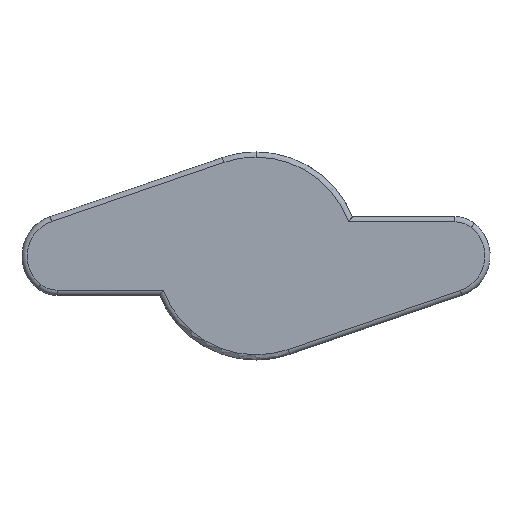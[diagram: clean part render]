
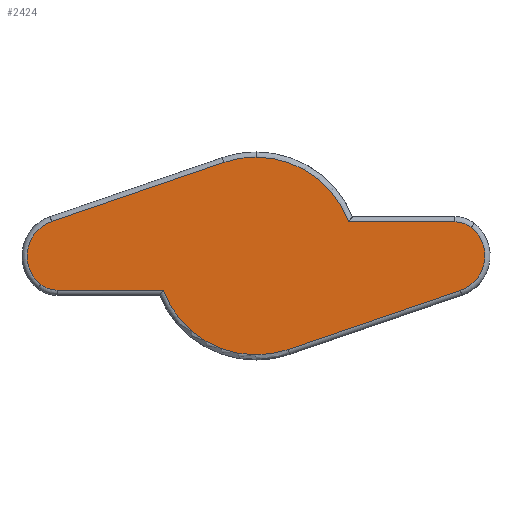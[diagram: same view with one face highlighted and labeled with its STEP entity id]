
A CAD part, front view. The second image highlights one B-rep face of the part: STEP entity #2424.
In plain terms, the highlighted planar face has unit normal (0, -1, 0).
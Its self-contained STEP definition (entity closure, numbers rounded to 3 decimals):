
#14 = CARTESIAN_POINT ( 'NONE',  ( 19.121, 0., 3.284 ) ) ;
#26 = CARTESIAN_POINT ( 'NONE',  ( 8.914, 0., 3.284 ) ) ;
#33 = EDGE_LOOP ( 'NONE', ( #1531, #1930, #3220, #2764, #3547, #1277, #1314, #2760, #2710, #3464, #493 ) ) ;
#94 = DIRECTION ( 'NONE',  ( 0., -1., 0. ) ) ;
#179 = AXIS2_PLACEMENT_3D ( 'NONE', #3183, #1493, #3453 ) ;
#204 = VERTEX_POINT ( 'NONE', #1848 ) ;
#234 = CARTESIAN_POINT ( 'NONE',  ( -19.121, 0., -3.284 ) ) ;
#332 = VERTEX_POINT ( 'NONE', #234 ) ;
#343 = DIRECTION ( 'NONE',  ( 0.946, 0., 0.324 ) ) ;
#361 = EDGE_CURVE ( 'NONE', #1002, #1988, #3283, .T. ) ;
#375 = EDGE_CURVE ( 'NONE', #204, #1638, #3197, .T. ) ;
#381 = DIRECTION ( 'NONE',  ( 0., -1., 0. ) ) ;
#473 = CARTESIAN_POINT ( 'NONE',  ( 0., 0., 0. ) ) ;
#493 = ORIENTED_EDGE ( 'NONE', *, *, #843, .T. ) ;
#629 = VERTEX_POINT ( 'NONE', #14 ) ;
#691 = CARTESIAN_POINT ( 'NONE',  ( 20.674, 0., 2.743 ) ) ;
#748 = DIRECTION ( 'NONE',  ( -0.946, 0., -0.324 ) ) ;
#772 = EDGE_CURVE ( 'NONE', #2037, #829, #1791, .T. ) ;
#829 = VERTEX_POINT ( 'NONE', #3485 ) ;
#843 = EDGE_CURVE ( 'NONE', #332, #1577, #1617, .T. ) ;
#863 = CIRCLE ( 'NONE', #179, 2.5 ) ;
#909 = DIRECTION ( 'NONE',  ( 0., -1., 0. ) ) ;
#915 = VECTOR ( 'NONE', #3588, 1000. ) ;
#1002 = VERTEX_POINT ( 'NONE', #3551 ) ;
#1026 = DIRECTION ( 'NONE',  ( 0., -1., 0. ) ) ;
#1036 = EDGE_CURVE ( 'NONE', #629, #2040, #1989, .T. ) ;
#1045 = VECTOR ( 'NONE', #343, 1000. ) ;
#1183 = CARTESIAN_POINT ( 'NONE',  ( 18.5, 0., 0. ) ) ;
#1277 = ORIENTED_EDGE ( 'NONE', *, *, #3484, .T. ) ;
#1299 = DIRECTION ( 'NONE',  ( 0., 1., 0. ) ) ;
#1314 = ORIENTED_EDGE ( 'NONE', *, *, #772, .T. ) ;
#1326 = CARTESIAN_POINT ( 'NONE',  ( -20.674, 0., -2.743 ) ) ;
#1446 = CARTESIAN_POINT ( 'NONE',  ( -18.5, 0., 0. ) ) ;
#1465 = DIRECTION ( 'NONE',  ( 0., 0., 1. ) ) ;
#1493 = DIRECTION ( 'NONE',  ( 0., -1., 0. ) ) ;
#1495 = AXIS2_PLACEMENT_3D ( 'NONE', #1753, #94, #2046 ) ;
#1531 = ORIENTED_EDGE ( 'NONE', *, *, #3500, .T. ) ;
#1577 = VERTEX_POINT ( 'NONE', #3476 ) ;
#1617 = LINE ( 'NONE', #3276, #915 ) ;
#1638 = VERTEX_POINT ( 'NONE', #691 ) ;
#1676 = CARTESIAN_POINT ( 'NONE',  ( 0., 0., 9.5 ) ) ;
#1691 = AXIS2_PLACEMENT_3D ( 'NONE', #2597, #909, #2877 ) ;
#1735 = EDGE_CURVE ( 'NONE', #829, #1002, #2930, .T. ) ;
#1753 = CARTESIAN_POINT ( 'NONE',  ( 0., 0., 0. ) ) ;
#1791 = CIRCLE ( 'NONE', #2338, 9.5 ) ;
#1848 = CARTESIAN_POINT ( 'NONE',  ( 19.635, 0., -3.311 ) ) ;
#1897 = CARTESIAN_POINT ( 'NONE',  ( 0., 0., 0. ) ) ;
#1906 = DIRECTION ( 'NONE',  ( 0., -1., 0. ) ) ;
#1923 = DIRECTION ( 'NONE',  ( 0., 0., 1. ) ) ;
#1929 = FACE_OUTER_BOUND ( 'NONE', #33, .T. ) ;
#1930 = ORIENTED_EDGE ( 'NONE', *, *, #2120, .T. ) ;
#1969 = AXIS2_PLACEMENT_3D ( 'NONE', #2700, #1026, #2992 ) ;
#1988 = VERTEX_POINT ( 'NONE', #1326 ) ;
#1989 = LINE ( 'NONE', #2436, #3388 ) ;
#2037 = VERTEX_POINT ( 'NONE', #1676 ) ;
#2040 = VERTEX_POINT ( 'NONE', #26 ) ;
#2046 = DIRECTION ( 'NONE',  ( 0., 0., 1. ) ) ;
#2120 = EDGE_CURVE ( 'NONE', #2659, #204, #3287, .T. ) ;
#2228 = EDGE_CURVE ( 'NONE', #1988, #332, #863, .T. ) ;
#2286 = CIRCLE ( 'NONE', #1691, 9.5 ) ;
#2313 = AXIS2_PLACEMENT_3D ( 'NONE', #1446, #381, #1465 ) ;
#2338 = AXIS2_PLACEMENT_3D ( 'NONE', #1897, #1906, #1923 ) ;
#2357 = VECTOR ( 'NONE', #748, 1000. ) ;
#2417 = EDGE_CURVE ( 'NONE', #1638, #629, #3416, .T. ) ;
#2418 = CARTESIAN_POINT ( 'NONE',  ( -3.081, 0., 8.986 ) ) ;
#2424 = ADVANCED_FACE ( 'NONE', ( #1929 ), #3538, .F. ) ;
#2436 = CARTESIAN_POINT ( 'NONE',  ( 0., 0., 3.284 ) ) ;
#2525 = AXIS2_PLACEMENT_3D ( 'NONE', #473, #1299, #3274 ) ;
#2597 = CARTESIAN_POINT ( 'NONE',  ( 0., 0., 0. ) ) ;
#2659 = VERTEX_POINT ( 'NONE', #3189 ) ;
#2694 = AXIS2_PLACEMENT_3D ( 'NONE', #1183, #3404, #2875 ) ;
#2700 = CARTESIAN_POINT ( 'NONE',  ( 19.121, 0., 0.784 ) ) ;
#2710 = ORIENTED_EDGE ( 'NONE', *, *, #361, .T. ) ;
#2760 = ORIENTED_EDGE ( 'NONE', *, *, #1735, .T. ) ;
#2764 = ORIENTED_EDGE ( 'NONE', *, *, #2417, .T. ) ;
#2875 = DIRECTION ( 'NONE',  ( 0., 0., 1. ) ) ;
#2877 = DIRECTION ( 'NONE',  ( 0., 0., 1. ) ) ;
#2930 = LINE ( 'NONE', #2418, #2357 ) ;
#2942 = CIRCLE ( 'NONE', #1495, 9.5 ) ;
#2992 = DIRECTION ( 'NONE',  ( 0., 0., 1. ) ) ;
#3122 = CARTESIAN_POINT ( 'NONE',  ( 3.081, 0., -8.986 ) ) ;
#3183 = CARTESIAN_POINT ( 'NONE',  ( -19.121, 0., -0.784 ) ) ;
#3189 = CARTESIAN_POINT ( 'NONE',  ( 3.081, 0., -8.986 ) ) ;
#3197 = CIRCLE ( 'NONE', #2694, 3.5 ) ;
#3220 = ORIENTED_EDGE ( 'NONE', *, *, #375, .T. ) ;
#3274 = DIRECTION ( 'NONE',  ( 0., 0., 1. ) ) ;
#3276 = CARTESIAN_POINT ( 'NONE',  ( 0., 0., -3.284 ) ) ;
#3283 = CIRCLE ( 'NONE', #2313, 3.5 ) ;
#3287 = LINE ( 'NONE', #3122, #1045 ) ;
#3388 = VECTOR ( 'NONE', #3580, 1000. ) ;
#3404 = DIRECTION ( 'NONE',  ( 0., -1., 0. ) ) ;
#3416 = CIRCLE ( 'NONE', #1969, 2.5 ) ;
#3453 = DIRECTION ( 'NONE',  ( 0., 0., 1. ) ) ;
#3464 = ORIENTED_EDGE ( 'NONE', *, *, #2228, .T. ) ;
#3476 = CARTESIAN_POINT ( 'NONE',  ( -8.914, 0., -3.284 ) ) ;
#3484 = EDGE_CURVE ( 'NONE', #2040, #2037, #2942, .T. ) ;
#3485 = CARTESIAN_POINT ( 'NONE',  ( -3.081, 0., 8.986 ) ) ;
#3500 = EDGE_CURVE ( 'NONE', #1577, #2659, #2286, .T. ) ;
#3538 = PLANE ( 'NONE',  #2525 ) ;
#3547 = ORIENTED_EDGE ( 'NONE', *, *, #1036, .T. ) ;
#3551 = CARTESIAN_POINT ( 'NONE',  ( -19.635, 0., 3.311 ) ) ;
#3580 = DIRECTION ( 'NONE',  ( -1., 0., 0. ) ) ;
#3588 = DIRECTION ( 'NONE',  ( 1., 0., 0. ) ) ;
